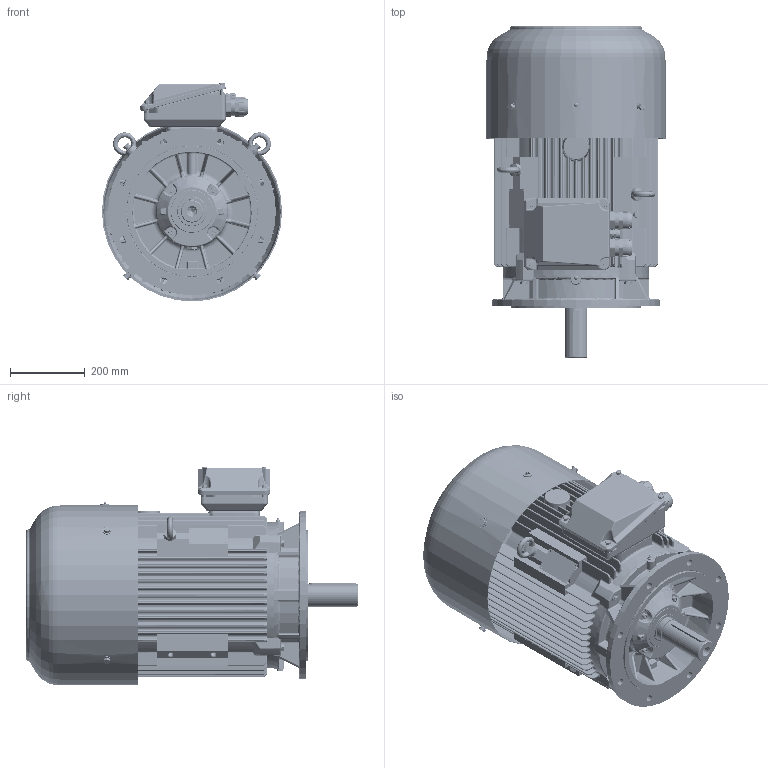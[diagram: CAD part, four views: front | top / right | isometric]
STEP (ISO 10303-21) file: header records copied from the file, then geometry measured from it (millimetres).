
FILE_DESCRIPTION(/* description */ ('Unknown'),/* implementation_level */ '2;1');
FILE_NAME(/* name */ 'SIEK225(4-12)-K',/* time_stamp */ '2021-12-28T13:21:31+01:00',/* author */ ('Unknown'),/* organization */ ('Unknown'),/* preprocessor_version */ 'ST-DEVELOPER v16.7',/* originating_system */ 'DEX',/* authorisation */ $);
FILE_SCHEMA (('AUTOMOTIVE_DESIGN {1 0 10303 214 3 1 1}'));
Products named in the file (1): SIEK225(4-12)-K
Bounding box: 483 x 890 x 586.9 mm (x, y, z)
Volume: 15430233.9 mm3; surface area: 4715329.7 mm2
Topology: 1 solids, 26 shells, 9028 faces, 24238 edges, 15081 vertices
Faces by surface type: plane 4638, cylinder 2096, bspline 1120, torus 687, cone 281, sphere 206
Full cylindrical faces by diameter (mm): 1.5 x2, 3 x2, 3.242 x2, 3.5 x4, 4 x2, 5 x2, 6 x6, 6.466 x5, 6.647 x12, 8 x15, 8.16 x5, 8.36 x2, 8.376 x7, 8.917 x2, 9 x9, 9.091 x1, 9.853 x4, 10 x23, 10.106 x4, 10.5 x4, 11 x1, 11.63 x5, 12 x8, 13 x7, 13.835 x4, 14 x10, 14.376 x9, 14.63 x5, 16.63 x4, 17 x1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
Entity records: 363089 total; most frequent: CARTESIAN_POINT 80172, ORIENTED_EDGE 46574, DIRECTION 43324, EDGE_CURVE 23287, VERTEX_POINT 14787, AXIS2_PLACEMENT_3D 14607, LINE 14110, VECTOR 14110
